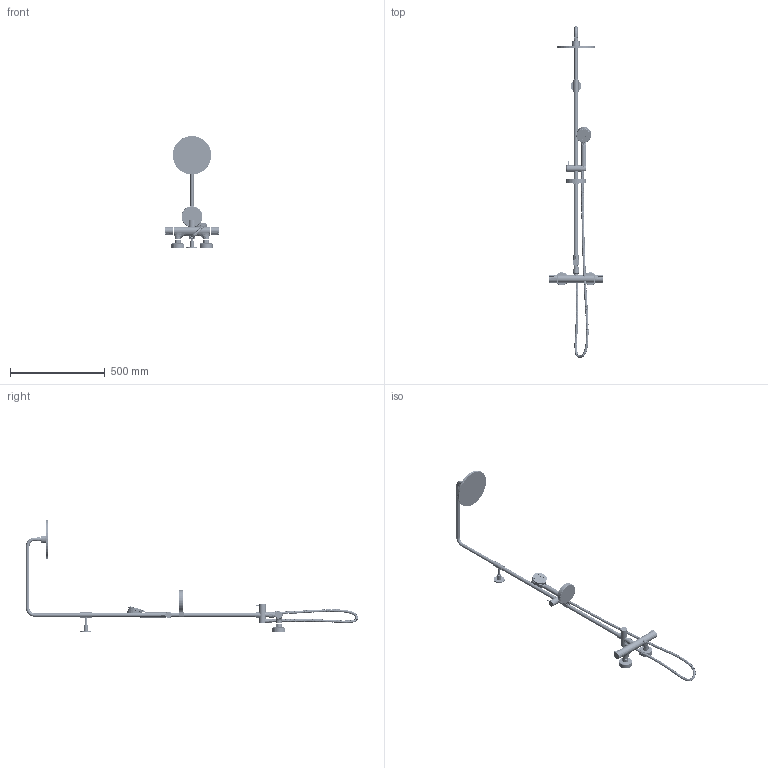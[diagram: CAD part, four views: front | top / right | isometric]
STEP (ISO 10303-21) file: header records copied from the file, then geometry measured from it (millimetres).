
FILE_DESCRIPTION((''),'2;1');
FILE_NAME('40910--','2026-10-14T14:58:02',('simi1'),(''),'CREO PARAMETRIC BY PTC INC, 2022244','CREO PARAMETRIC BY PTC INC, 2022244','');
FILE_SCHEMA(('CONFIG_CONTROL_DESIGN'));
Products named in the file (1): 40910--
Bounding box: 284.15 x 1752.98 x 591.8 mm (x, y, z)
Surface area: 546447.6 mm2 (no closed solid volume)
Topology: 0 solids, 140 shells, 535 faces, 1741 edges, 1292 vertices
Faces by surface type: plane 144, torus 126, cylinder 125, cone 86, bspline 40, sphere 12, extrusion 2
Entity records: 265719 total; most frequent: CARTESIAN_POINT 251298, DIRECTION 3159, ORIENTED_EDGE 2456, EDGE_CURVE 1735, AXIS2_PLACEMENT_3D 1333, VERTEX_POINT 1292, CIRCLE 840, EDGE_LOOP 535
